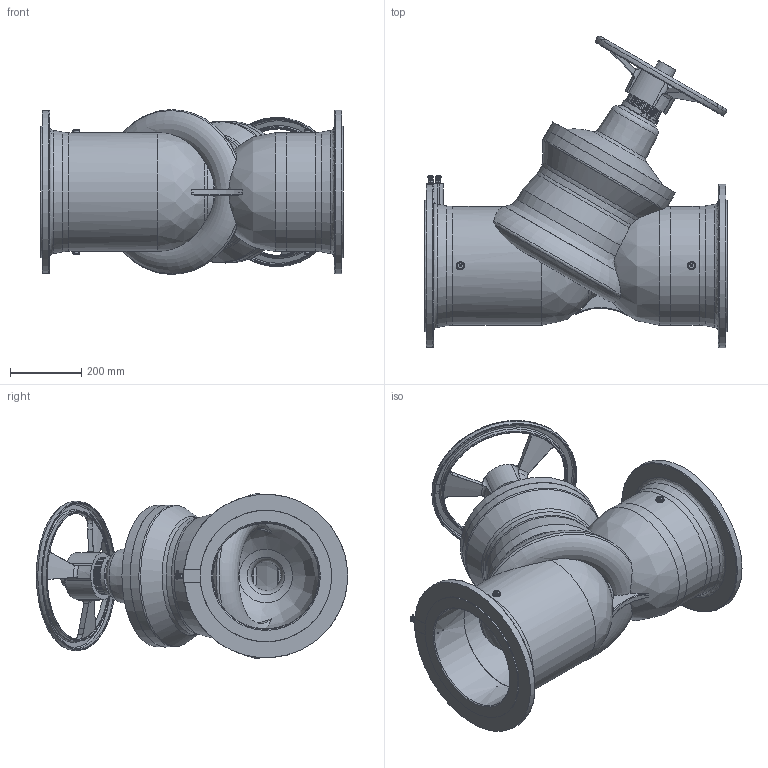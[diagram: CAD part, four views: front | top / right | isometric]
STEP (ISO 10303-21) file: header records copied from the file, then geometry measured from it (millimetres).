
FILE_DESCRIPTION((''),'2;1');
FILE_NAME('P:\Fastrack\53972_CRANE 3D\DM921-941\WORKSPACE\DM921-941\DM941_DN300\DM941_DN300.stp','2011-03-01T16:05:18',('btaylor'),(''),'Autodesk Inventor 2008','Autodesk Inventor 2008','');
FILE_SCHEMA(('AUTOMOTIVE_DESIGN { 1 0 10303 214 1 1 1 1 }'));
Length unit declared in the file: millimetre
Products named in the file (1): DM941_DN300
Bounding box: 850 x 875.54 x 462.62 mm (x, y, z)
Volume: 71567895.5 mm3; surface area: 3382873.9 mm2
Topology: 2 solids, 5 shells, 897 faces, 2295 edges, 1500 vertices
Faces by surface type: plane 328, bspline 277, cylinder 177, cone 77, torus 38
Full cylindrical faces by diameter (mm): 7.4 x2, 8 x2, 11 x2, 12 x12, 12.7 x2, 13.7 x2, 20 x4, 32 x1, 32.7 x1, 45.7 x1, 46.2 x1, 46.8 x1, 50 x1, 63 x1, 84 x1, 98 x1, 114 x1, 122 x1, 295 x1, 300 x1, 325.5 x1, 334 x2, 366.489 x1, 370 x2
Entity records: 79507 total; most frequent: CARTESIAN_POINT 59596, ORIENTED_EDGE 4200, DIRECTION 3084, EDGE_CURVE 2100, VERTEX_POINT 1438, EDGE_LOOP 1149, AXIS2_PLACEMENT_3D 1136, STYLED_ITEM 897
